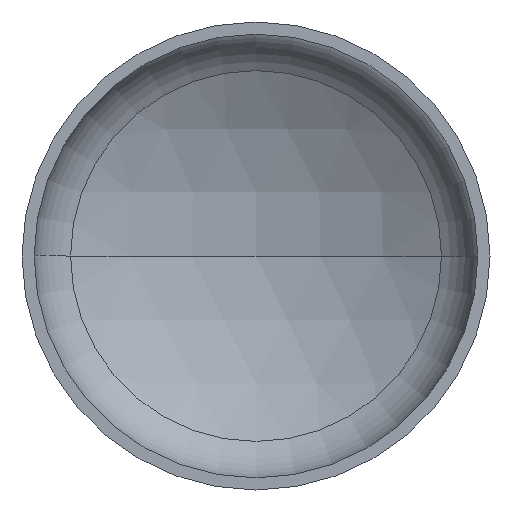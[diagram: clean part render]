
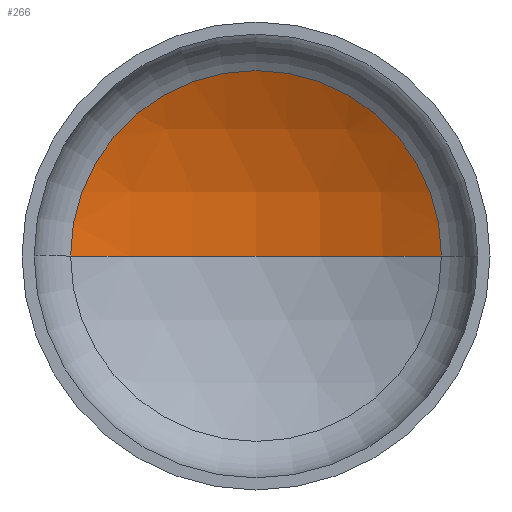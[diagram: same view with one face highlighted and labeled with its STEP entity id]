
A CAD part, front view. The second image highlights one B-rep face of the part: STEP entity #266.
In plain terms, the highlighted spherical face has radius 2720 mm.
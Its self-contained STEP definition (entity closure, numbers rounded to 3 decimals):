
#5 = EDGE_LOOP ( 'NONE', ( #70, #16, #31 ) ) ;
#7 = AXIS2_PLACEMENT_3D ( 'NONE', #156, #159, #144 ) ;
#11 = AXIS2_PLACEMENT_3D ( 'NONE', #286, #164, #322 ) ;
#16 = ORIENTED_EDGE ( 'NONE', *, *, #354, .T. ) ;
#18 = VERTEX_POINT ( 'NONE', #291 ) ;
#30 = AXIS2_PLACEMENT_3D ( 'NONE', #274, #276, #257 ) ;
#31 = ORIENTED_EDGE ( 'NONE', *, *, #106, .T. ) ;
#33 = VERTEX_POINT ( 'NONE', #289 ) ;
#34 = VERTEX_POINT ( 'NONE', #294 ) ;
#56 = AXIS2_PLACEMENT_3D ( 'NONE', #225, #203, #205 ) ;
#70 = ORIENTED_EDGE ( 'NONE', *, *, #363, .F. ) ;
#102 = CIRCLE ( 'NONE', #56, 1346.989 ) ;
#106 = EDGE_CURVE ( 'NONE', #18, #34, #102, .T. ) ;
#138 = CIRCLE ( 'NONE', #7, 2720. ) ;
#144 = DIRECTION ( 'NONE',  ( 1., 0., 0. ) ) ;
#156 = CARTESIAN_POINT ( 'NONE',  ( 0., -1806.949, 0. ) ) ;
#159 = DIRECTION ( 'NONE',  ( 0., 0., 1. ) ) ;
#164 = DIRECTION ( 'NONE',  ( 0., 0., -1. ) ) ;
#199 = CIRCLE ( 'NONE', #11, 2720. ) ;
#203 = DIRECTION ( 'NONE',  ( 0., -1., 0. ) ) ;
#205 = DIRECTION ( 'NONE',  ( 1., 0., 0. ) ) ;
#225 = CARTESIAN_POINT ( 'NONE',  ( 0., 556.104, 0. ) ) ;
#227 = FACE_OUTER_BOUND ( 'NONE', #5, .T. ) ;
#257 = DIRECTION ( 'NONE',  ( -1., 0., 0. ) ) ;
#266 = ADVANCED_FACE ( 'NONE', ( #227 ), #409, .F. ) ;
#274 = CARTESIAN_POINT ( 'NONE',  ( 0., -1806.949, 0. ) ) ;
#276 = DIRECTION ( 'NONE',  ( 0., 0., -1. ) ) ;
#286 = CARTESIAN_POINT ( 'NONE',  ( 0., -1806.949, 0. ) ) ;
#289 = CARTESIAN_POINT ( 'NONE',  ( 0., 913.051, 0. ) ) ;
#291 = CARTESIAN_POINT ( 'NONE',  ( 1346.989, 556.104, 0. ) ) ;
#294 = CARTESIAN_POINT ( 'NONE',  ( -1346.989, 556.104, 0. ) ) ;
#322 = DIRECTION ( 'NONE',  ( -1., 0., 0. ) ) ;
#354 = EDGE_CURVE ( 'NONE', #33, #18, #199, .T. ) ;
#363 = EDGE_CURVE ( 'NONE', #33, #34, #138, .T. ) ;
#409 = SPHERICAL_SURFACE ( 'NONE', #30, 2720. ) ;
